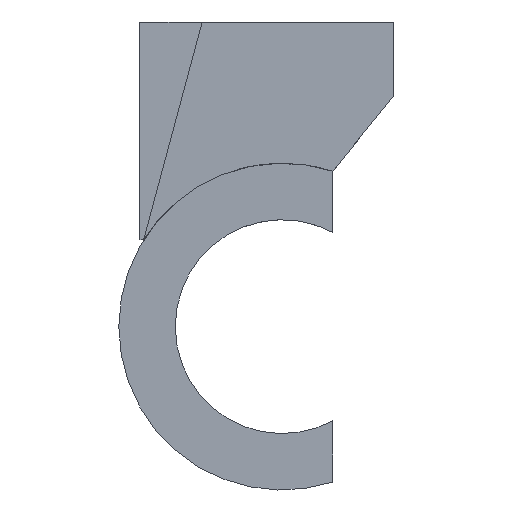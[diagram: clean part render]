
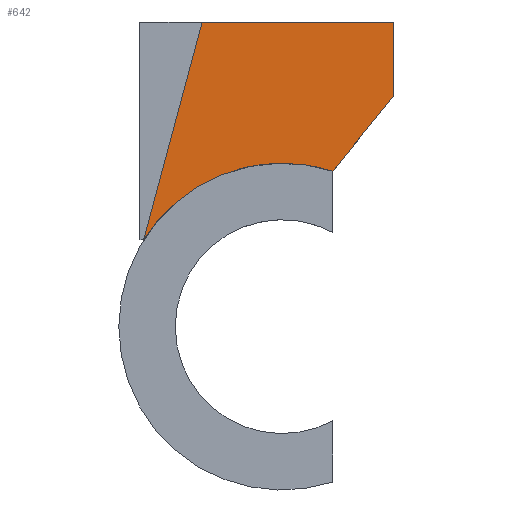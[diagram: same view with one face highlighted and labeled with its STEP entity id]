
A CAD part, left-side view. The second image highlights one B-rep face of the part: STEP entity #642.
In plain terms, the highlighted planar face has unit normal (-1, 0, 0).
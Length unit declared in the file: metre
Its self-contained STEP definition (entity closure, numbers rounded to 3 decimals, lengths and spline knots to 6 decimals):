
#24=LINE('',#909,#87);
#50=LINE('',#1001,#113);
#63=LINE('',#1056,#126);
#66=LINE('',#1076,#129);
#72=LINE('',#1088,#135);
#73=LINE('',#1090,#136);
#87=VECTOR('',#732,1.);
#113=VECTOR('',#790,1.);
#126=VECTOR('',#841,1.);
#129=VECTOR('',#856,1.);
#135=VECTOR('',#868,1.);
#136=VECTOR('',#869,1.);
#164=PLANE('',#711);
#310=ORIENTED_EDGE('',*,*,#427,.F.);
#311=ORIENTED_EDGE('',*,*,#433,.T.);
#312=ORIENTED_EDGE('',*,*,#402,.T.);
#313=ORIENTED_EDGE('',*,*,#439,.F.);
#314=ORIENTED_EDGE('',*,*,#440,.F.);
#315=ORIENTED_EDGE('',*,*,#363,.F.);
#316=ORIENTED_EDGE('',*,*,#369,.F.);
#363=EDGE_CURVE('',#456,#457,#24,.F.);
#369=EDGE_CURVE('',#462,#456,#516,.F.);
#402=EDGE_CURVE('',#490,#489,#50,.T.);
#427=EDGE_CURVE('',#502,#462,#63,.T.);
#433=EDGE_CURVE('',#502,#490,#66,.T.);
#439=EDGE_CURVE('',#508,#489,#72,.T.);
#440=EDGE_CURVE('',#457,#508,#73,.T.);
#456=VERTEX_POINT('',#908);
#457=VERTEX_POINT('',#910);
#462=VERTEX_POINT('',#923);
#489=VERTEX_POINT('',#1000);
#490=VERTEX_POINT('',#1002);
#502=VERTEX_POINT('',#1055);
#508=VERTEX_POINT('',#1089);
#516=CIRCLE('',#670,0.0081);
#560=EDGE_LOOP('',(#310,#311,#312,#313,#314,#315,#316));
#597=FACE_BOUND('',#560,.T.);
#642=ADVANCED_FACE('',(#597),#164,.F.);
#670=AXIS2_PLACEMENT_3D('',#922,#742,#743);
#711=AXIS2_PLACEMENT_3D('',#1087,#866,#867);
#732=DIRECTION('',(0.,0.259,-0.966));
#742=DIRECTION('',(1.,0.,0.));
#743=DIRECTION('',(0.,0.,-1.));
#790=DIRECTION('',(0.,-0.63,0.777));
#841=DIRECTION('',(0.,0.,1.));
#856=DIRECTION('',(0.,-1.,0.));
#866=DIRECTION('',(1.,0.,0.));
#867=DIRECTION('',(0.,1.,0.));
#868=DIRECTION('',(0.,0.,-1.));
#869=DIRECTION('',(0.,-1.,0.));
#908=CARTESIAN_POINT('',(-0.070678,0.009367,-0.027318));
#909=CARTESIAN_POINT('',(-0.070678,0.006472,-0.016514));
#910=CARTESIAN_POINT('',(-0.070678,0.006472,-0.016514));
#922=CARTESIAN_POINT('',(-0.070678,0.0025,-0.031614));
#923=CARTESIAN_POINT('',(-0.070678,0.0045,-0.023765));
#1000=CARTESIAN_POINT('',(-0.070678,-0.003,-0.020212));
#1001=CARTESIAN_POINT('',(-0.070678,-0.0015,-0.022061));
#1002=CARTESIAN_POINT('',(-0.070678,0.,-0.02391));
#1055=CARTESIAN_POINT('',(-0.070678,0.0045,-0.02391));
#1056=CARTESIAN_POINT('',(-0.070678,0.0045,-0.024597));
#1076=CARTESIAN_POINT('',(-0.070678,-0.03,-0.02391));
#1087=CARTESIAN_POINT('',(-0.070678,0.00075,-0.021065));
#1088=CARTESIAN_POINT('',(-0.070678,-0.003,-0.016514));
#1089=CARTESIAN_POINT('',(-0.070678,-0.003,-0.016514));
#1090=CARTESIAN_POINT('',(-0.070678,0.0025,-0.016514));
